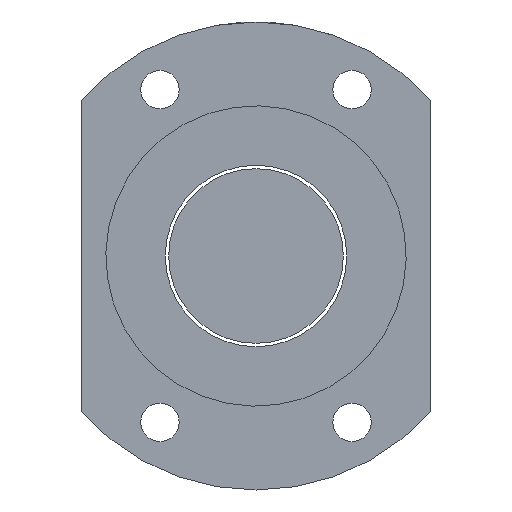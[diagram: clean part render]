
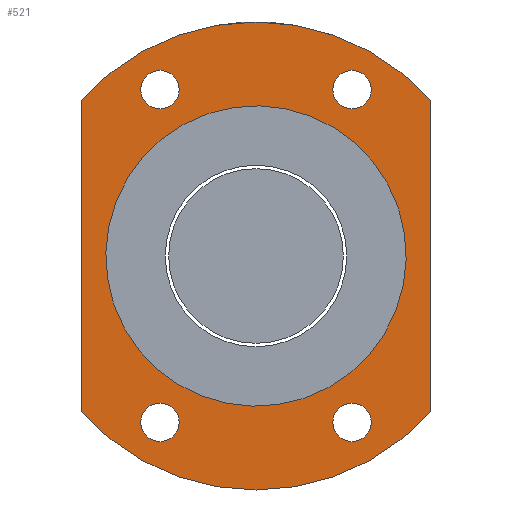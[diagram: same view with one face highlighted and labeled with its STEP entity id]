
A CAD part, left-side view. The second image highlights one B-rep face of the part: STEP entity #521.
In plain terms, the highlighted planar face has unit normal (-1, 0, 0).
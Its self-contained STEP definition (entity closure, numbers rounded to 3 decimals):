
#312=CARTESIAN_POINT('Line Origine',(-10.,-25.,0.)) ;
#316=CARTESIAN_POINT('Vertex',(-10.,-25.,22.299)) ;
#318=CARTESIAN_POINT('Vertex',(-10.,-25.,-22.299)) ;
#347=CARTESIAN_POINT('Vertex',(-10.,25.,-22.299)) ;
#350=CARTESIAN_POINT('Axis2P3D Location',(-10.,0.,0.)) ;
#367=CARTESIAN_POINT('Line Origine',(-10.,25.,0.)) ;
#371=CARTESIAN_POINT('Vertex',(-10.,25.,22.299)) ;
#391=CARTESIAN_POINT('Axis2P3D Location',(-10.,13.75,-23.816)) ;
#395=CARTESIAN_POINT('Vertex',(-10.,16.5,-23.816)) ;
#397=CARTESIAN_POINT('Vertex',(-10.,11.,-23.816)) ;
#417=CARTESIAN_POINT('Axis2P3D Location',(-10.,13.75,-23.816)) ;
#429=CARTESIAN_POINT('Axis2P3D Location',(-10.,0.,118.885)) ;
#434=CARTESIAN_POINT('Axis2P3D Location',(-10.,0.,0.)) ;
#445=CARTESIAN_POINT('Axis2P3D Location',(-10.,-13.75,-23.816)) ;
#449=CARTESIAN_POINT('Vertex',(-10.,-11.,-23.816)) ;
#451=CARTESIAN_POINT('Vertex',(-10.,-16.5,-23.816)) ;
#454=CARTESIAN_POINT('Axis2P3D Location',(-10.,-13.75,-23.816)) ;
#467=CARTESIAN_POINT('Axis2P3D Location',(-10.,-13.75,23.816)) ;
#471=CARTESIAN_POINT('Vertex',(-10.,-15.125,21.434)) ;
#473=CARTESIAN_POINT('Vertex',(-10.,-12.375,26.197)) ;
#476=CARTESIAN_POINT('Axis2P3D Location',(-10.,-13.75,23.816)) ;
#485=CARTESIAN_POINT('Axis2P3D Location',(-10.,13.75,23.816)) ;
#489=CARTESIAN_POINT('Vertex',(-10.,11.,23.816)) ;
#491=CARTESIAN_POINT('Vertex',(-10.,16.5,23.816)) ;
#494=CARTESIAN_POINT('Axis2P3D Location',(-10.,13.75,23.816)) ;
#503=CARTESIAN_POINT('Axis2P3D Location',(-10.,0.,0.)) ;
#507=CARTESIAN_POINT('Vertex',(-10.,10.308,18.868)) ;
#509=CARTESIAN_POINT('Vertex',(-10.,-10.308,-18.868)) ;
#512=CARTESIAN_POINT('Axis2P3D Location',(-10.,0.,0.)) ;
#313=DIRECTION('Vector Direction',(0.,0.,-1.)) ;
#351=DIRECTION('Axis2P3D Direction',(1.,0.,0.)) ;
#368=DIRECTION('Vector Direction',(0.,0.,1.)) ;
#392=DIRECTION('Axis2P3D Direction',(-1.,0.,0.)) ;
#418=DIRECTION('Axis2P3D Direction',(-1.,0.,0.)) ;
#430=DIRECTION('Axis2P3D Direction',(-1.,0.,0.)) ;
#431=DIRECTION('Axis2P3D XDirection',(0.,1.,0.)) ;
#435=DIRECTION('Axis2P3D Direction',(-1.,0.,0.)) ;
#446=DIRECTION('Axis2P3D Direction',(-1.,0.,0.)) ;
#455=DIRECTION('Axis2P3D Direction',(-1.,0.,0.)) ;
#468=DIRECTION('Axis2P3D Direction',(-1.,0.,0.)) ;
#477=DIRECTION('Axis2P3D Direction',(-1.,0.,0.)) ;
#486=DIRECTION('Axis2P3D Direction',(-1.,0.,0.)) ;
#495=DIRECTION('Axis2P3D Direction',(-1.,0.,0.)) ;
#504=DIRECTION('Axis2P3D Direction',(-1.,0.,0.)) ;
#513=DIRECTION('Axis2P3D Direction',(-1.,0.,0.)) ;
#352=AXIS2_PLACEMENT_3D('Circle Axis2P3D',#350,#351,$) ;
#393=AXIS2_PLACEMENT_3D('Circle Axis2P3D',#391,#392,$) ;
#419=AXIS2_PLACEMENT_3D('Circle Axis2P3D',#417,#418,$) ;
#432=AXIS2_PLACEMENT_3D('Plane Axis2P3D',#429,#430,#431) ;
#436=AXIS2_PLACEMENT_3D('Circle Axis2P3D',#434,#435,$) ;
#447=AXIS2_PLACEMENT_3D('Circle Axis2P3D',#445,#446,$) ;
#456=AXIS2_PLACEMENT_3D('Circle Axis2P3D',#454,#455,$) ;
#469=AXIS2_PLACEMENT_3D('Circle Axis2P3D',#467,#468,$) ;
#478=AXIS2_PLACEMENT_3D('Circle Axis2P3D',#476,#477,$) ;
#487=AXIS2_PLACEMENT_3D('Circle Axis2P3D',#485,#486,$) ;
#496=AXIS2_PLACEMENT_3D('Circle Axis2P3D',#494,#495,$) ;
#505=AXIS2_PLACEMENT_3D('Circle Axis2P3D',#503,#504,$) ;
#514=AXIS2_PLACEMENT_3D('Circle Axis2P3D',#512,#513,$) ;
#440=ORIENTED_EDGE('',*,*,#438,.T.) ;
#441=ORIENTED_EDGE('',*,*,#373,.F.) ;
#442=ORIENTED_EDGE('',*,*,#354,.T.) ;
#443=ORIENTED_EDGE('',*,*,#320,.F.) ;
#460=ORIENTED_EDGE('',*,*,#453,.F.) ;
#461=ORIENTED_EDGE('',*,*,#458,.F.) ;
#464=ORIENTED_EDGE('',*,*,#399,.F.) ;
#465=ORIENTED_EDGE('',*,*,#421,.F.) ;
#482=ORIENTED_EDGE('',*,*,#475,.F.) ;
#483=ORIENTED_EDGE('',*,*,#480,.F.) ;
#500=ORIENTED_EDGE('',*,*,#493,.F.) ;
#501=ORIENTED_EDGE('',*,*,#498,.F.) ;
#518=ORIENTED_EDGE('',*,*,#511,.F.) ;
#519=ORIENTED_EDGE('',*,*,#516,.F.) ;
#462=FACE_BOUND('',#459,.T.) ;
#466=FACE_BOUND('',#463,.T.) ;
#484=FACE_BOUND('',#481,.T.) ;
#502=FACE_BOUND('',#499,.T.) ;
#520=FACE_BOUND('',#517,.T.) ;
#314=VECTOR('Line Direction',#313,1.) ;
#369=VECTOR('Line Direction',#368,1.) ;
#521=ADVANCED_FACE('NUT',(#444,#462,#466,#484,#502,#520),#433,.T.) ;
#353=CIRCLE('generated circle',#352,33.5) ;
#394=CIRCLE('generated circle',#393,2.75) ;
#420=CIRCLE('generated circle',#419,2.75) ;
#437=CIRCLE('generated circle',#436,33.5) ;
#448=CIRCLE('generated circle',#447,2.75) ;
#457=CIRCLE('generated circle',#456,2.75) ;
#470=CIRCLE('generated circle',#469,2.75) ;
#479=CIRCLE('generated circle',#478,2.75) ;
#488=CIRCLE('generated circle',#487,2.75) ;
#497=CIRCLE('generated circle',#496,2.75) ;
#506=CIRCLE('generated circle',#505,21.5) ;
#515=CIRCLE('generated circle',#514,21.5) ;
#320=EDGE_CURVE('',#317,#319,#315,.T.) ;
#354=EDGE_CURVE('',#348,#319,#353,.F.) ;
#373=EDGE_CURVE('',#348,#372,#370,.T.) ;
#399=EDGE_CURVE('',#396,#398,#394,.T.) ;
#421=EDGE_CURVE('',#398,#396,#420,.T.) ;
#438=EDGE_CURVE('',#317,#372,#437,.T.) ;
#453=EDGE_CURVE('',#450,#452,#448,.T.) ;
#458=EDGE_CURVE('',#452,#450,#457,.T.) ;
#475=EDGE_CURVE('',#472,#474,#470,.T.) ;
#480=EDGE_CURVE('',#474,#472,#479,.T.) ;
#493=EDGE_CURVE('',#490,#492,#488,.T.) ;
#498=EDGE_CURVE('',#492,#490,#497,.T.) ;
#511=EDGE_CURVE('',#508,#510,#506,.T.) ;
#516=EDGE_CURVE('',#510,#508,#515,.T.) ;
#439=EDGE_LOOP('',(#440,#441,#442,#443)) ;
#459=EDGE_LOOP('',(#460,#461)) ;
#463=EDGE_LOOP('',(#464,#465)) ;
#481=EDGE_LOOP('',(#482,#483)) ;
#499=EDGE_LOOP('',(#500,#501)) ;
#517=EDGE_LOOP('',(#518,#519)) ;
#444=FACE_OUTER_BOUND('',#439,.T.) ;
#315=LINE('Line',#312,#314) ;
#370=LINE('Line',#367,#369) ;
#433=PLANE('',#432) ;
#317=VERTEX_POINT('',#316) ;
#319=VERTEX_POINT('',#318) ;
#348=VERTEX_POINT('',#347) ;
#372=VERTEX_POINT('',#371) ;
#396=VERTEX_POINT('',#395) ;
#398=VERTEX_POINT('',#397) ;
#450=VERTEX_POINT('',#449) ;
#452=VERTEX_POINT('',#451) ;
#472=VERTEX_POINT('',#471) ;
#474=VERTEX_POINT('',#473) ;
#490=VERTEX_POINT('',#489) ;
#492=VERTEX_POINT('',#491) ;
#508=VERTEX_POINT('',#507) ;
#510=VERTEX_POINT('',#509) ;
